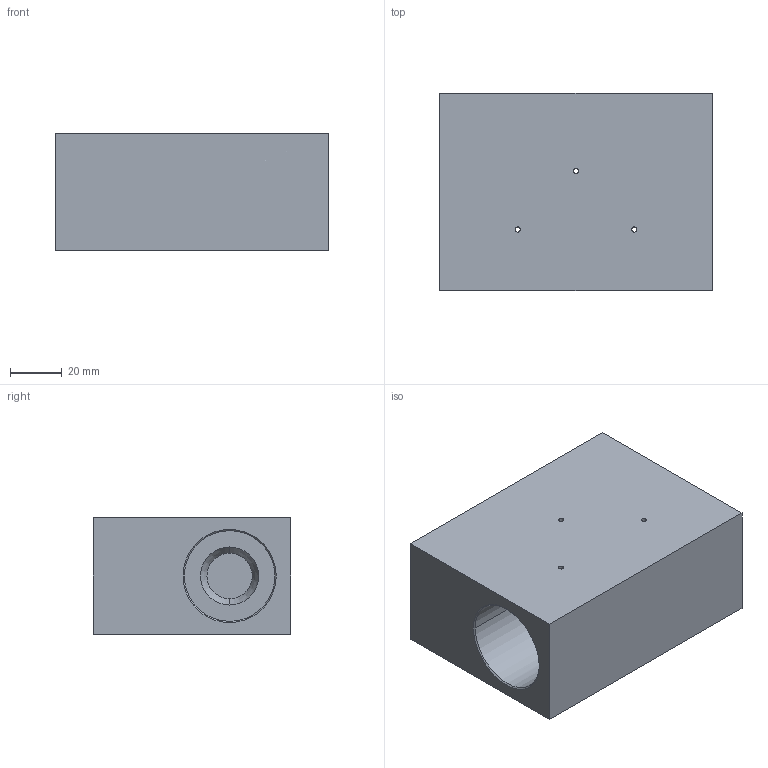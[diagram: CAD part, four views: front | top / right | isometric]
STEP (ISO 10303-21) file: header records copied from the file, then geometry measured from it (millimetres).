
FILE_DESCRIPTION (( 'STEP AP203' ), '1' );
FILE_NAME ('FT20TS16.STEP', '2026-06-26T01:22:46', ( 'USER' ), ( '' ), 'SwSTEP 2.0', 'SolidWorks 2023', '' );
FILE_SCHEMA (( 'CONFIG_CONTROL_DESIGN' ));
Length unit declared in the file: millimetre
Products named in the file (1): FT20TS16
Bounding box: 105 x 76 x 45 mm (x, y, z)
Volume: 255467.3 mm3; surface area: 44596 mm2
Topology: 1 solids, 1 shells, 48 faces, 118 edges, 76 vertices
Faces by surface type: cylinder 24, cone 12, plane 12
Entity records: 1695 total; most frequent: CARTESIAN_POINT 439, DIRECTION 252, ORIENTED_EDGE 236, EDGE_CURVE 118, AXIS2_PLACEMENT_3D 101, VERTEX_POINT 76, EDGE_LOOP 64, CIRCLE 52
